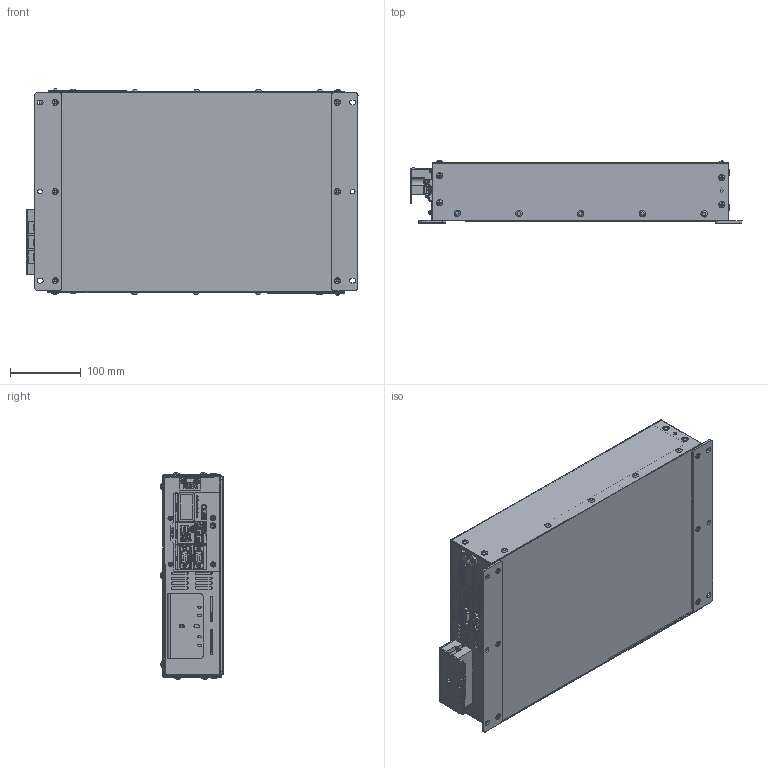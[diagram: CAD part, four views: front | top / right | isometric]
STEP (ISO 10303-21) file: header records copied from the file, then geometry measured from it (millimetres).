
FILE_DESCRIPTION(/* description */ (''),/* implementation_level */ '2;1');
FILE_NAME(/* name */ '',/* time_stamp */ '2026-06-02T10:53:00+09:00',/* author */ ('Administrator'),/* organization */ (''),/* preprocessor_version */ 'ST-DEVELOPER v20.1',/* originating_system */ 'Autodesk Inventor 2026',/* authorisation */ '');
FILE_SCHEMA (('AUTOMOTIVE_DESIGN { 1 0 10303 214 3 1 1 }'));
Products named in the file (1): OLED VW2COM ASS'Y_2026.06.02_단순화_동국1
차
Bounding box: 469.44 x 88.98 x 291.98 mm (x, y, z)
Volume: 697292.8 mm3; surface area: 852583.1 mm2
Topology: 19 solids, 19 shells, 5930 faces, 15644 edges, 10236 vertices
Faces by surface type: plane 3316, cylinder 1217, bspline 1185, torus 126, cone 62, sphere 24
Full cylindrical faces by diameter (mm): 0.013 x9, 0.6 x3, 0.609 x1, 0.61 x27, 0.635 x9, 0.7 x18, 0.75 x18, 0.85 x3, 0.9 x22, 1 x5, 1.397 x9, 1.4 x2, 1.5 x4, 2.1 x2, 2.286 x9, 2.5 x4, 2.8 x12, 2.957 x12, 3 x6, 3.048 x4, 3.3 x3, 3.4 x5, 3.6 x4, 3.783 x2, 3.8 x44, 3.9 x2, 4 x15, 4.3 x8, 4.5 x12, 5 x17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
Entity records: 212938 total; most frequent: CARTESIAN_POINT 65254, ORIENTED_EDGE 31252, DIRECTION 25653, EDGE_CURVE 15626, VERTEX_POINT 10236, LINE 9781, VECTOR 9781, AXIS2_PLACEMENT_3D 7936
